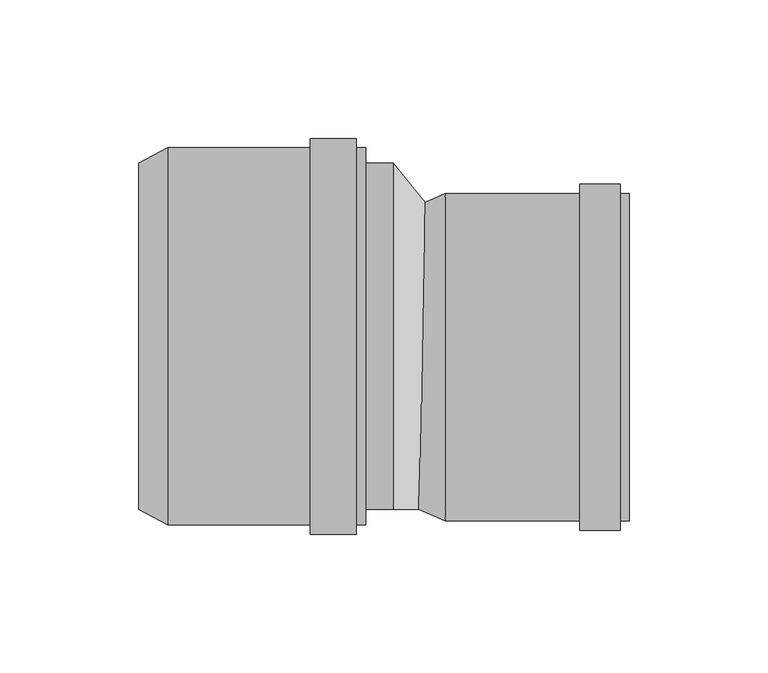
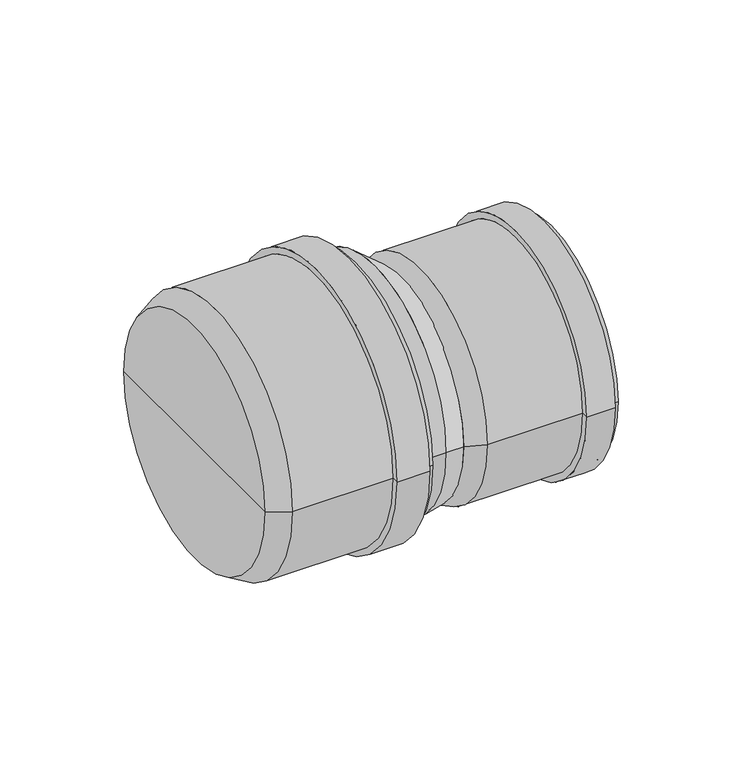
"""IFC4 building model written with IfcOpenShell, lengths in millimetres: pipe fitting geometry, pf_HTR_red-nes-dlouha : pf_HTR_red-nes-dlouha."""

import ifcopenshell
import ifcopenshell.guid

model = None  # the IFC model being written
_history = None  # IfcOwnerHistory: only IFC2X3 demands one
_inside = {}  # id of a spatial element -> (the spatial element, [elements in it])
_under = {}  # id of a project, library or spatial element -> (it, [spatial elements below it])
_declared = {}  # id of a project -> (the project, [libraries it declares])
_typed = {}  # id of a type object -> (the type object, [elements of that type])
_made_of = {}  # id of a material, layer set ... -> (it, [elements and type objects made of it])


def new_model(schema):
    """Start an empty IFC model of exactly this schema.

    Asked for "IFC4X3", IfcOpenShell would pick the latest addendum, in which some entities
    have other attributes; the version numbers below select the first issue.
    IFC2X3 requires an IfcOwnerHistory on every rooted entity: one is made here for all.
    """
    global model, _history
    if schema == "IFC4X3":
        model = ifcopenshell.file(schema_version=(4, 3, 0, 0))
    else:
        model = ifcopenshell.file(schema=schema)
    _inside.clear()
    _under.clear()
    _declared.clear()
    _typed.clear()
    _made_of.clear()
    _history = None
    if model.schema == "IFC2X3":
        org = make("IfcOrganization", Name="unknown")
        user = make(
            "IfcPersonAndOrganization",
            ThePerson=make("IfcPerson", FamilyName="unknown"),
            TheOrganization=org,
        )
        app = make(
            "IfcApplication",
            ApplicationDeveloper=org,
            Version="unknown",
            ApplicationFullName="unknown",
            ApplicationIdentifier="unknown",
        )
        _history = make(
            "IfcOwnerHistory",
            OwningUser=user,
            OwningApplication=app,
            ChangeAction="ADDED",
            CreationDate=0,
        )
    return model


def make(cls, **values):
    """One entity of the class cls with the attributes given. An attribute that is None is left unset."""
    return model.create_entity(
        cls, **{name: value for name, value in values.items() if value is not None}
    )


def rooted(cls, **values):
    """An entity with a GlobalId (a new one), such as an element, a storey or a relation."""
    return make(cls, GlobalId=ifcopenshell.guid.new(), OwnerHistory=_history, **values)


def si_unit(unit_type, name, prefix=None):
    """IfcSIUnit, for example si_unit("LENGTHUNIT", "METRE", prefix="MILLI")."""
    return make("IfcSIUnit", UnitType=unit_type, Prefix=prefix, Name=name)


def assignment(units):
    """IfcUnitAssignment: the units of a project."""
    return None if units is None else make("IfcUnitAssignment", Units=units)


def point(xyz):
    """IfcCartesianPoint."""
    return None if xyz is None else make("IfcCartesianPoint", Coordinates=xyz)


def direction(xyz):
    """IfcDirection."""
    return None if xyz is None else make("IfcDirection", DirectionRatios=xyz)


def frame(location, z_axis=None, x_axis=None):
    """IfcAxis2Placement3D, a coordinate frame: its origin and axes. An axis left out is left unset."""
    return make(
        "IfcAxis2Placement3D",
        Location=point(location),
        Axis=direction(z_axis),
        RefDirection=direction(x_axis),
    )


def frame_2d(location, x_axis=None):
    """IfcAxis2Placement2D, a coordinate frame in the plane: its origin and x axis."""
    return make(
        "IfcAxis2Placement2D", Location=point(location), RefDirection=direction(x_axis)
    )


def origin():
    """The frame at (0, 0, 0) with its axes left unset."""
    return frame((0.0, 0.0, 0.0))


def origin_2d():
    """The frame at (0, 0) in the plane with its x axis left unset."""
    return frame_2d((0.0, 0.0))


def place(relative_to, where):
    """IfcLocalPlacement: puts the frame where relative to a parent placement (None: the world)."""
    return make(
        "IfcLocalPlacement", PlacementRelTo=relative_to, RelativePlacement=where
    )


def context(
    kind, dimensions, precision=None, world=None, true_north=None, identifier=None
):
    """IfcGeometricRepresentationContext, for example the 3D "Model" context."""
    return make(
        "IfcGeometricRepresentationContext",
        ContextIdentifier=identifier,
        ContextType=kind,
        CoordinateSpaceDimension=dimensions,
        Precision=precision,
        WorldCoordinateSystem=world,
        TrueNorth=true_north,
    )


def project(units=None, contexts=None):
    """IfcProject with its units and contexts."""
    return rooted(
        "IfcProject",
        Name="project",
        RepresentationContexts=contexts,
        UnitsInContext=assignment(units),
    )


def spatial(cls, under=None, at=None, **own):
    """A site, building, storey or space (cls), placed at a placement, below another one or the project."""
    s = rooted(cls, ObjectPlacement=at, **own)
    if under is not None:
        _under.setdefault(under.id(), (under, []))[1].append(s)
    return s


def polyline(points):
    """IfcPolyline through the points."""
    return make("IfcPolyline", Points=[point(p) for p in points])


def circle_curve(where, radius):
    """IfcCircle in the frame where."""
    return make("IfcCircle", Position=where, Radius=radius)


def trimmed(basis, trim1, trim2, sense, master):
    """IfcTrimmedCurve: the piece of a basis curve between two trims."""
    return make(
        "IfcTrimmedCurve",
        BasisCurve=basis,
        Trim1=trim1,
        Trim2=trim2,
        SenseAgreement=sense,
        MasterRepresentation=master,
    )


def segment(curve, same_sense, transition):
    """IfcCompositeCurveSegment."""
    return make(
        "IfcCompositeCurveSegment",
        Transition=transition,
        SameSense=same_sense,
        ParentCurve=curve,
    )


def composite_curve(segments, self_intersect=None):
    """IfcCompositeCurve: segments joined end to end."""
    return make("IfcCompositeCurve", Segments=segments, SelfIntersect=self_intersect)


def outline(outer, holes=None, kind="AREA"):
    """IfcArbitraryClosedProfileDef: a profile drawn as a closed curve; with holes, ...WithVoids."""
    if holes is None:
        return make("IfcArbitraryClosedProfileDef", ProfileType=kind, OuterCurve=outer)
    return make(
        "IfcArbitraryProfileDefWithVoids",
        ProfileType=kind,
        OuterCurve=outer,
        InnerCurves=holes,
    )


def extrude(swept, where, along, depth):
    """IfcExtrudedAreaSolid: the profile swept, set in the frame where, extruded along a direction by depth."""
    return make(
        "IfcExtrudedAreaSolid",
        SweptArea=swept,
        Position=where,
        ExtrudedDirection=direction(along),
        Depth=depth,
    )


def shape(context_of_items, identifier, shape_type, items):
    """IfcShapeRepresentation: the items that make up one representation, for example the "Body"."""
    return make(
        "IfcShapeRepresentation",
        ContextOfItems=context_of_items,
        RepresentationIdentifier=identifier,
        RepresentationType=shape_type,
        Items=items,
    )


def source(mapping_origin, context_of_items, identifier, shape_type, items):
    """IfcRepresentationMap: a shape defined once, which mapped items show again and again."""
    return make(
        "IfcRepresentationMap",
        MappingOrigin=mapping_origin,
        MappedRepresentation=shape(context_of_items, identifier, shape_type, items),
    )


def transform(
    local_origin,
    x_axis=None,
    y_axis=None,
    z_axis=None,
    scale=None,
    scale2=None,
    scale3=None,
    uniform=True,
):
    """IfcCartesianTransformationOperator3D, or its non-uniform kind. x_axis, y_axis, z_axis: its Axis1, 2, 3."""
    if uniform:
        return make(
            "IfcCartesianTransformationOperator3D",
            Axis1=direction(x_axis),
            Axis2=direction(y_axis),
            LocalOrigin=point(local_origin),
            Scale=scale,
            Axis3=direction(z_axis),
        )
    return make(
        "IfcCartesianTransformationOperator3DnonUniform",
        Axis1=direction(x_axis),
        Axis2=direction(y_axis),
        LocalOrigin=point(local_origin),
        Scale=scale,
        Axis3=direction(z_axis),
        Scale2=scale2,
        Scale3=scale3,
    )


def mapped(mapping_source, mapping_target):
    """IfcMappedItem: shows the shape of a source again, moved by a transform."""
    return make(
        "IfcMappedItem", MappingSource=mapping_source, MappingTarget=mapping_target
    )


def made_of(thing, what):
    """Note that an element or type object is made of a material, layer set ...; save() writes the relation."""
    if what is not None:
        _made_of.setdefault(what.id(), (what, []))[1].append(thing)
    return thing


def element(
    cls,
    number,
    at=None,
    inside=None,
    cuts=None,
    type_object=None,
    material=None,
    context=None,
    identifier="Body",
    shape_type=None,
    held_by="IfcProductDefinitionShape",
    body=None,
    shapes=None,
    **own,
):
    """One element of the class cls, such as IfcWall. Its Tag is "e" and its number.

    at: its placement. inside: the storey or other place that contains it. cuts: it is an
    opening in that element (IfcRelVoidsElement). A single representation is given by context,
    identifier, shape_type and body (its items); several are given by shapes. held_by: the class
    of the entity that holds the representations. save() writes the other relations.
    """
    e = rooted(cls, Tag="e%d" % number, ObjectPlacement=at, **own)
    if body is not None:
        shapes = [shape(context, identifier, shape_type, body)]
    if shapes is not None:
        e.Representation = make(held_by, Representations=shapes)
    if inside is not None:
        _inside.setdefault(inside.id(), (inside, []))[1].append(e)
    if cuts is not None:
        rooted(
            "IfcRelVoidsElement", RelatingBuildingElement=cuts, RelatedOpeningElement=e
        )
    if type_object is not None:
        _typed.setdefault(type_object.id(), (type_object, []))[1].append(e)
    return made_of(e, material)


def aggregate(whole, parts):
    """IfcRelAggregates: a whole, such as a stair, and the parts it consists of."""
    return rooted("IfcRelAggregates", RelatingObject=whole, RelatedObjects=parts)


def save(model, path):
    """Write the relations noted so far, then the file.

    IfcRelAggregates (storeys below a building ...), IfcRelContainedInSpatialStructure (elements
    in a storey), IfcRelDefinesByType, IfcRelAssociatesMaterial and IfcRelDeclares: one each for
    every whole, place, type object, material and project.
    """
    for whole, parts in _under.values():
        aggregate(whole, parts)
    for where, things in _inside.values():
        rooted(
            "IfcRelContainedInSpatialStructure",
            RelatedElements=things,
            RelatingStructure=where,
        )
    for kind, things in _typed.values():
        rooted("IfcRelDefinesByType", RelatedObjects=things, RelatingType=kind)
    for what, things in _made_of.values():
        rooted("IfcRelAssociatesMaterial", RelatedObjects=things, RelatingMaterial=what)
    for by, libraries in _declared.values():
        rooted("IfcRelDeclares", RelatingContext=by, RelatedDefinitions=libraries)
    model.write(path)


def plane_surface(at):
    """IfcPlane: the flat surface through the origin of the frame at, square to its z axis."""
    return make("IfcPlane", Position=at)


def cylinder_surface(at, radius):
    """IfcCylindricalSurface: all points at the distance radius from the z axis of the frame at."""
    return make("IfcCylindricalSurface", Position=at, Radius=radius)


def revolved_surface(curve, axis_point, axis_direction):
    """IfcSurfaceOfRevolution: the curve turned about the line through axis_point along axis_direction."""
    return make(
        "IfcSurfaceOfRevolution",
        SweptCurve=make("IfcArbitraryOpenProfileDef", ProfileType="CURVE", Curve=curve),
        AxisPosition=make("IfcAxis1Placement", Location=point(axis_point), Axis=direction(axis_direction)),
    )


def spline_surface(u_degree, v_degree, points, u_multiplicities, v_multiplicities, u_knots, v_knots, weights=None):
    """IfcBSplineSurfaceWithKnots; with weights, IfcRationalBSplineSurfaceWithKnots. points: one row for each step in u."""
    own = dict(
        UDegree=u_degree,
        VDegree=v_degree,
        ControlPointsList=[[point(p) for p in row] for row in points],
        SurfaceForm="UNSPECIFIED",
        UClosed=False,
        VClosed=False,
        SelfIntersect=False,
        UMultiplicities=u_multiplicities,
        VMultiplicities=v_multiplicities,
        UKnots=u_knots,
        VKnots=v_knots,
        KnotSpec="UNSPECIFIED",
    )
    if weights is None:
        return make("IfcBSplineSurfaceWithKnots", **own)
    return make("IfcRationalBSplineSurfaceWithKnots", WeightsData=weights, **own)


def advanced_brep(points, edges, surfaces, faces):
    """IfcAdvancedBrep: a solid bounded by faces that lie on surfaces and meet in shared edges.

    An edge is (start, end): straight between two places in points (the first is 0);
    or (start, end, curve); or (start, end, curve, False) where it runs against its curve.
    A face is (place in surfaces, loops), or (place, loops, False) where it looks against
    its surface's normal. A loop lists edges by number (the first is 1), with a minus sign
    where the edge is run from its end to its start. The first loop is the outer one.
    """
    corners = [point(p) for p in points]
    vertices = [make("IfcVertexPoint", VertexGeometry=c) for c in corners]
    made = []
    for start, end, *more in edges:
        made.append(
            make(
                "IfcEdgeCurve",
                EdgeStart=vertices[start],
                EdgeEnd=vertices[end],
                EdgeGeometry=more[0] if more else make("IfcPolyline", Points=[corners[start], corners[end]]),
                SameSense=more[1] if len(more) > 1 else True,
            )
        )
    hull = []
    for where, loops, *sense in faces:
        bounds = []
        for j, loop in enumerate(loops):
            ring = [make("IfcOrientedEdge", EdgeElement=made[abs(k) - 1], Orientation=k > 0) for k in loop]
            bounds.append(
                make(
                    "IfcFaceOuterBound" if j == 0 else "IfcFaceBound",
                    Bound=make("IfcEdgeLoop", EdgeList=ring),
                    Orientation=True,
                )
            )
        hull.append(make("IfcAdvancedFace", Bounds=bounds, FaceSurface=surfaces[where], SameSense=sense[0] if sense else True))
    return make("IfcAdvancedBrep", Outer=make("IfcClosedShell", CfsFaces=hull))


def pipe_fitting_a152be7c(model_context):
    return source(origin(), model_context, "Body", "SolidModel", [
        advanced_brep(
        [(-92.0, -62.5, 0.0), (-92.0, 62.5, 0.0), (-81.5, 68.1, 0.0), (-81.5, -68.1, 0.0), (-92.0, 0.0, 0.0), (-10.0, -68.1, 0.0), (-10.0, 68.1, 0.0), (-10.0, 0.0, 0.0), (-13.4, -68.1, 0.0), (-13.4, 68.1, 0.0), (-13.4, -71.5, 0.0), (-13.4, 71.5, 0.0), (-30.0, -71.5, 0.0), (-30.0, 71.5, 0.0), (-30.0, -68.1, 0.0), (-30.0, 68.1, 0.0)],
        [
            (0, 1, circle_curve(frame((-92.0, 0.0, 0.0), z_axis=(1.0, 0.0, 0.0), x_axis=(0.0, 1.0, 0.0)), 62.5)),
            (1, 2),
            (2, 3, circle_curve(frame((-81.5, 0.0, 0.0), z_axis=(-1.0, 0.0, 0.0), x_axis=(0.0, 1.0, 0.0)), 68.1)),
            (3, 0),
            (1, 0, circle_curve(frame((-92.0, 0.0, 0.0), z_axis=(1.0, 0.0, 0.0), x_axis=(0.0, 1.0, 0.0)), 62.5)),
            (3, 2, circle_curve(frame((-81.5, 0.0, 0.0), z_axis=(-1.0, 0.0, 0.0), x_axis=(0.0, 1.0, 0.0)), 68.1)),
            (4, 1),
            (0, 4),
            (5, 6, circle_curve(frame((-10.0, 0.0, 0.0), z_axis=(1.0, 0.0, 0.0), x_axis=(0.0, 1.0, 0.0)), 68.1)),
            (6, 7),
            (7, 5),
            (6, 5, circle_curve(frame((-10.0, 0.0, 0.0), z_axis=(1.0, 0.0, 0.0), x_axis=(0.0, 1.0, 0.0)), 68.1)),
            (8, 9, circle_curve(frame((-13.4, 0.0, 0.0), z_axis=(1.0, 0.0, 0.0), x_axis=(0.0, 1.0, 0.0)), 68.1)),
            (9, 6),
            (5, 8),
            (9, 8, circle_curve(frame((-13.4, 0.0, 0.0), z_axis=(1.0, 0.0, 0.0), x_axis=(0.0, 1.0, 0.0)), 68.1)),
            (10, 11, circle_curve(frame((-13.4, 0.0, 0.0), z_axis=(1.0, 0.0, 0.0), x_axis=(0.0, 1.0, 0.0)), 71.5)),
            (11, 9),
            (8, 10),
            (11, 10, circle_curve(frame((-13.4, 0.0, 0.0), z_axis=(1.0, 0.0, 0.0), x_axis=(0.0, 1.0, 0.0)), 71.5)),
            (12, 13, circle_curve(frame((-30.0, 0.0, 0.0), z_axis=(1.0, 0.0, 0.0), x_axis=(0.0, 1.0, 0.0)), 71.5)),
            (13, 11),
            (10, 12),
            (13, 12, circle_curve(frame((-30.0, 0.0, 0.0), z_axis=(1.0, 0.0, 0.0), x_axis=(0.0, 1.0, 0.0)), 71.5)),
            (14, 15, circle_curve(frame((-30.0, 0.0, 0.0), z_axis=(1.0, 0.0, 0.0), x_axis=(0.0, 1.0, 0.0)), 68.1)),
            (15, 13),
            (12, 14),
            (15, 14, circle_curve(frame((-30.0, 0.0, 0.0), z_axis=(1.0, 0.0, 0.0), x_axis=(0.0, 1.0, 0.0)), 68.1)),
            (2, 15),
            (14, 3),
        ],
        [
            revolved_surface(polyline([(-81.5, 68.1, 0.0), (-92.0, 62.5, 0.0)]), (-92.0, 0.0, 0.0), (-1.0, 0.0, 0.0)),
            plane_surface(frame((-92.0, 0.0, 0.0), z_axis=(-1.0, 0.0, 0.0), x_axis=(0.0, 1.0, 0.0))),
            plane_surface(frame((-10.0, 0.0, 0.0), z_axis=(1.0, 0.0, 0.0), x_axis=(0.0, 1.0, 0.0))),
            cylinder_surface(frame((-92.0, 0.0, 0.0), z_axis=(-1.0, 0.0, 0.0), x_axis=(0.0, 1.0, 0.0)), 68.1),
            plane_surface(frame((-13.4, 0.0, 0.0), z_axis=(1.0, 0.0, 0.0), x_axis=(0.0, 1.0, 0.0))),
            cylinder_surface(frame((-92.0, 0.0, 0.0), z_axis=(-1.0, 0.0, 0.0), x_axis=(0.0, 1.0, 0.0)), 71.5),
            plane_surface(frame((-30.0, 0.0, 0.0), z_axis=(-1.0, 0.0, 0.0), x_axis=(0.0, 1.0, 0.0))),
        ],
        [
            (0, [[1, 2, 3, 4]]),
            (0, [[5, -4, 6, -2]]),
            (1, [[7, -1, 8]]),
            (1, [[-8, -5, -7]]),
            (2, [[9, 10, 11]]),
            (2, [[12, -11, -10]]),
            (3, [[13, 14, -9, 15]]),
            (3, [[16, -15, -12, -14]]),
            (4, [[17, 18, -13, 19]]),
            (4, [[20, -19, -16, -18]]),
            (5, [[21, 22, -17, 23]]),
            (5, [[24, -23, -20, -22]]),
            (6, [[25, 26, -21, 27]]),
            (6, [[28, -27, -24, -26]]),
            (3, [[-3, 29, -25, 30]]),
            (3, [[-6, -30, -28, -29]]),
        ],
    ),
        advanced_brep(
        [(9.25, -62.5, 0.0), (9.25, 47.5, 0.0), (18.75, 51.6, 0.0), (18.75, -66.6, 0.0), (9.25, -7.5, 0.0), (85.25, -66.6, 0.0), (85.25, 51.6, 0.0), (85.25, -7.5, 0.0), (81.85, -66.6, 0.0), (81.85, 51.6, 0.0), (81.85, -70.0, 0.0), (81.85, 55.0, 0.0), (67.35, -70.0, 0.0), (67.35, 55.0, 0.0), (67.35, -66.6, 0.0), (67.35, 51.6, 0.0)],
        [
            (0, 1, circle_curve(frame((9.25, -7.5, 0.0), z_axis=(1.0, 0.0, 0.0), x_axis=(0.0, 1.0, 0.0)), 55.0)),
            (1, 2),
            (2, 3, circle_curve(frame((18.75, -7.5, 0.0), z_axis=(-1.0, 0.0, 0.0), x_axis=(0.0, 1.0, 0.0)), 59.1)),
            (3, 0),
            (1, 0, circle_curve(frame((9.25, -7.5, 0.0), z_axis=(1.0, 0.0, 0.0), x_axis=(0.0, 1.0, 0.0)), 55.0)),
            (3, 2, circle_curve(frame((18.75, -7.5, 0.0), z_axis=(-1.0, 0.0, 0.0), x_axis=(0.0, 1.0, 0.0)), 59.1)),
            (4, 1),
            (0, 4),
            (5, 6, circle_curve(frame((85.25, -7.5, 0.0), z_axis=(1.0, 0.0, 0.0), x_axis=(0.0, 1.0, 0.0)), 59.1)),
            (6, 7),
            (7, 5),
            (6, 5, circle_curve(frame((85.25, -7.5, 0.0), z_axis=(1.0, 0.0, 0.0), x_axis=(0.0, 1.0, 0.0)), 59.1)),
            (8, 9, circle_curve(frame((81.85, -7.5, 0.0), z_axis=(1.0, 0.0, 0.0), x_axis=(0.0, 1.0, 0.0)), 59.1)),
            (9, 6),
            (5, 8),
            (9, 8, circle_curve(frame((81.85, -7.5, 0.0), z_axis=(1.0, 0.0, 0.0), x_axis=(0.0, 1.0, 0.0)), 59.1)),
            (10, 11, circle_curve(frame((81.85, -7.5, 0.0), z_axis=(1.0, 0.0, 0.0), x_axis=(0.0, 1.0, 0.0)), 62.5)),
            (11, 9),
            (8, 10),
            (11, 10, circle_curve(frame((81.85, -7.5, 0.0), z_axis=(1.0, 0.0, 0.0), x_axis=(0.0, 1.0, 0.0)), 62.5)),
            (12, 13, circle_curve(frame((67.35, -7.5, 0.0), z_axis=(1.0, 0.0, 0.0), x_axis=(0.0, 1.0, 0.0)), 62.5)),
            (13, 11),
            (10, 12),
            (13, 12, circle_curve(frame((67.35, -7.5, 0.0), z_axis=(1.0, 0.0, 0.0), x_axis=(0.0, 1.0, 0.0)), 62.5)),
            (14, 15, circle_curve(frame((67.35, -7.5, 0.0), z_axis=(1.0, 0.0, 0.0), x_axis=(0.0, 1.0, 0.0)), 59.1)),
            (15, 13),
            (12, 14),
            (15, 14, circle_curve(frame((67.35, -7.5, 0.0), z_axis=(1.0, 0.0, 0.0), x_axis=(0.0, 1.0, 0.0)), 59.1)),
            (2, 15),
            (14, 3),
        ],
        [
            revolved_surface(polyline([(18.75, 51.6, 0.0), (9.25, 47.5, 0.0)]), (9.25, -7.5, 0.0), (-1.0, 0.0, 0.0)),
            plane_surface(frame((9.25, -7.5, 0.0), z_axis=(-1.0, 0.0, 0.0), x_axis=(0.0, 1.0, 0.0))),
            plane_surface(frame((85.25, -7.5, 0.0), z_axis=(1.0, 0.0, 0.0), x_axis=(0.0, 1.0, 0.0))),
            cylinder_surface(frame((9.25, -7.5, 0.0), z_axis=(-1.0, 0.0, 0.0), x_axis=(0.0, 1.0, 0.0)), 59.1),
            plane_surface(frame((81.85, -7.5, 0.0), z_axis=(1.0, 0.0, 0.0), x_axis=(0.0, 1.0, 0.0))),
            cylinder_surface(frame((9.25, -7.5, 0.0), z_axis=(-1.0, 0.0, 0.0), x_axis=(0.0, 1.0, 0.0)), 62.5),
            plane_surface(frame((67.35, -7.5, 0.0), z_axis=(-1.0, 0.0, 0.0), x_axis=(0.0, 1.0, 0.0))),
        ],
        [
            (0, [[1, 2, 3, 4]]),
            (0, [[5, -4, 6, -2]]),
            (1, [[7, -1, 8]]),
            (1, [[-8, -5, -7]]),
            (2, [[9, 10, 11]]),
            (2, [[12, -11, -10]]),
            (3, [[13, 14, -9, 15]]),
            (3, [[16, -15, -12, -14]]),
            (4, [[17, 18, -13, 19]]),
            (4, [[20, -19, -16, -18]]),
            (5, [[21, 22, -17, 23]]),
            (5, [[24, -23, -20, -22]]),
            (6, [[25, 26, -21, 27]]),
            (6, [[28, -27, -24, -26]]),
            (3, [[-3, 29, -25, 30]]),
            (3, [[-6, -30, -28, -29]]),
        ],
    ),
        extrude(outline(composite_curve([segment(trimmed(circle_curve(origin_2d(), 62.5), [point((-62.5, 0.0))], [point((62.5, 0.0))], False, "CARTESIAN"), True, "CONTINUOUS"), segment(trimmed(circle_curve(origin_2d(), 62.5), [point((62.5, 0.0))], [point((-62.5, 0.0))], False, "CARTESIAN"), True, "CONTINUOUS")], self_intersect=False)), frame((-10.0, 0.0, 0.0), z_axis=(1.0, 0.0, 0.0), x_axis=(0.0, 1.0, 0.0)), (0.0, 0.0, 1.0), 10.0),
        advanced_brep(
        [(12.25, -62.5, 0.0), (12.25, 47.5, 0.0), (0.0, -62.5, 0.0), (0.0, 62.5, 0.0)],
        [
            (0, 1, circle_curve(frame((12.25, -7.5, 0.0), z_axis=(1.0, 0.0, 0.0), x_axis=(0.0, 1.0, 0.0)), 55.0)),
            (1, 0, circle_curve(frame((12.25, -7.5, 0.0), z_axis=(1.0, 0.0, 0.0), x_axis=(0.0, 1.0, 0.0)), 55.0)),
            (2, 3, circle_curve(frame((0.0, 0.0, 0.0), z_axis=(-1.0, 0.0, 0.0), x_axis=(0.0, 1.0, 0.0)), 62.5)),
            (3, 2, circle_curve(frame((0.0, 0.0, 0.0), z_axis=(-1.0, 0.0, 0.0), x_axis=(0.0, 1.0, 0.0)), 62.5)),
            (3, 1),
            (0, 2),
        ],
        [
            plane_surface(frame((12.25, -7.5, 0.0), z_axis=(1.0, 0.0, 0.0), x_axis=(0.0, 0.0, -1.0))),
            plane_surface(frame((0.0, 0.0, 0.0), z_axis=(-1.0, 0.0, 0.0), x_axis=(0.0, 0.0, -1.0))),
            spline_surface(2, 1, [[(0.0, -62.5, 0.0), (12.25, -62.5, 0.0)], [(0.0, -62.5, -62.5), (12.25, -62.5, -55.0)], [(0.0, 0.0, -62.5), (12.25, -7.5, -55.0)], [(0.0, 62.5, -62.5), (12.25, 47.5, -55.0)], [(0.0, 62.5, 0.0), (12.25, 47.5, 0.0)]], [3, 2, 3], [2, 2], [0.0, 1.0, 2.0], [0.0, 1.0], weights=[[1.0, 1.0], [0.7071067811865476, 0.7071067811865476], [1.0, 1.0], [0.7071067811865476, 0.7071067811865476], [1.0, 1.0]]),
            spline_surface(2, 1, [[(0.0, 62.5, 0.0), (12.25, 47.5, 0.0)], [(0.0, 62.5, 62.5), (12.25, 47.5, 55.0)], [(0.0, 0.0, 62.5), (12.25, -7.5, 55.0)], [(0.0, -62.5, 62.5), (12.25, -62.5, 55.0)], [(0.0, -62.5, 0.0), (12.25, -62.5, 0.0)]], [3, 2, 3], [2, 2], [0.0, 1.0, 2.0], [0.0, 1.0], weights=[[1.0, 1.0], [0.7071067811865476, 0.7071067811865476], [1.0, 1.0], [0.7071067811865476, 0.7071067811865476], [1.0, 1.0]]),
        ],
        [
            (0, [[1, 2]]),
            (1, [[3, 4]]),
            (2, [[-4, 5, -1, 6]]),
            (3, [[-3, -6, -2, -5]]),
        ],
    ),
    ])


if __name__ == "__main__":
    model = new_model("IFC4")
    model_context = context("Model", 3, world=origin())
    ifc_project = project(units=[si_unit("LENGTHUNIT", "METRE", prefix="MILLI")], contexts=[model_context])
    site = spatial("IfcSite", under=ifc_project)
    building = spatial("IfcBuilding", under=site)
    placement = place(None, origin())
    pipe_fitting_shape = pipe_fitting_a152be7c(model_context)
    element("IfcPipeFitting", 1, ObjectType="pf_HTR_red-nes-dlouha : pf_HTR_red-nes-dlouha", at=placement, inside=building, context=model_context, shape_type="MappedRepresentation", body=[
        mapped(pipe_fitting_shape, transform((0.0, 0.0, 0.0), x_axis=(1.0, 0.0, 0.0), y_axis=(0.0, 1.0, 0.0), z_axis=(0.0, 0.0, 1.0))),
    ])
    save(model, "model.ifc")
